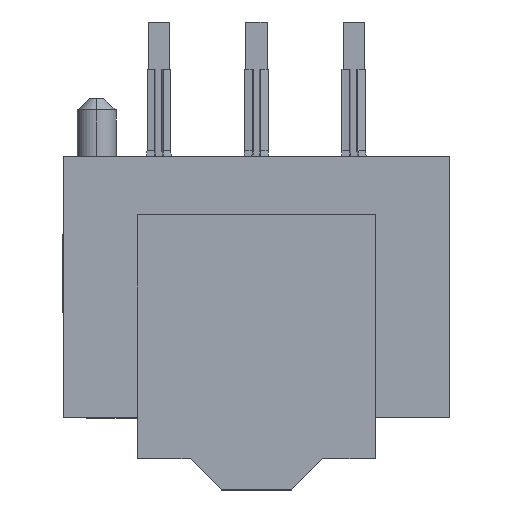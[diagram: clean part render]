
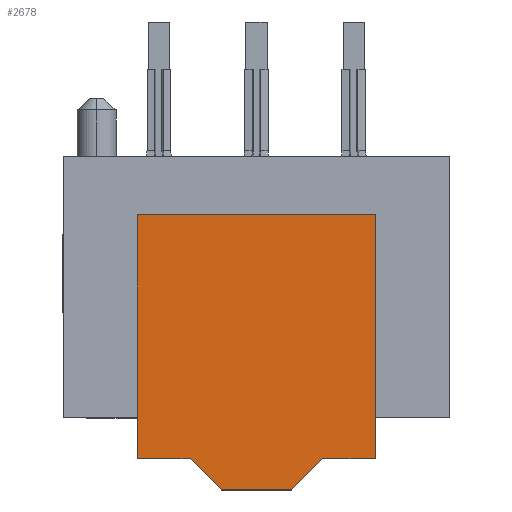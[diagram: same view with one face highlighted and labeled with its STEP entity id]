
A CAD part, top view. The second image highlights one B-rep face of the part: STEP entity #2678.
In plain terms, the highlighted planar face has unit normal (0, 0, 1).
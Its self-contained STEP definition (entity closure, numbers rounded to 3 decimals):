
#360=DIRECTION('',(-1.,0.,0.));
#361=VECTOR('',#360,1.35);
#362=CARTESIAN_POINT('',(-1.7,-5.204,4.2));
#363=LINE('',#362,#361);
#372=DIRECTION('',(0.,1.,0.));
#373=VECTOR('',#372,6.258);
#374=CARTESIAN_POINT('',(-3.05,-5.204,4.2));
#375=LINE('',#374,#373);
#512=DIRECTION('',(-1.,0.,0.));
#513=VECTOR('',#512,1.35);
#514=CARTESIAN_POINT('',(3.05,-5.204,4.2));
#515=LINE('',#514,#513);
#556=DIRECTION('',(0.,1.,0.));
#557=VECTOR('',#556,6.258);
#558=CARTESIAN_POINT('',(3.05,-5.204,4.2));
#559=LINE('',#558,#557);
#560=DIRECTION('',(0.707,0.707,0.));
#561=VECTOR('',#560,1.131);
#562=CARTESIAN_POINT('',(0.9,-6.004,4.2));
#563=LINE('',#562,#561);
#564=DIRECTION('',(1.,0.,0.));
#565=VECTOR('',#564,1.8);
#566=CARTESIAN_POINT('',(-0.9,-6.004,4.2));
#567=LINE('',#566,#565);
#568=DIRECTION('',(0.707,-0.707,0.));
#569=VECTOR('',#568,1.131);
#570=CARTESIAN_POINT('',(-1.7,-5.204,4.2));
#571=LINE('',#570,#569);
#580=DIRECTION('',(1.,0.,0.));
#581=VECTOR('',#580,6.1);
#582=CARTESIAN_POINT('',(-3.05,1.054,4.2));
#583=LINE('',#582,#581);
#1481=CARTESIAN_POINT('',(-3.05,-5.204,4.2));
#1482=CARTESIAN_POINT('',(-3.05,1.054,4.2));
#1483=VERTEX_POINT('',#1481);
#1484=VERTEX_POINT('',#1482);
#1497=CARTESIAN_POINT('',(3.05,1.054,4.2));
#1498=VERTEX_POINT('',#1497);
#1499=CARTESIAN_POINT('',(3.05,-5.204,4.2));
#1500=VERTEX_POINT('',#1499);
#1501=CARTESIAN_POINT('',(-0.9,-6.004,4.2));
#1502=CARTESIAN_POINT('',(0.9,-6.004,4.2));
#1503=VERTEX_POINT('',#1501);
#1504=VERTEX_POINT('',#1502);
#1653=CARTESIAN_POINT('',(-1.7,-5.204,4.2));
#1654=VERTEX_POINT('',#1653);
#1663=CARTESIAN_POINT('',(1.7,-5.204,4.2));
#1664=VERTEX_POINT('',#1663);
#2662=CARTESIAN_POINT('',(-3.05,2.254,4.2));
#2663=DIRECTION('',(0.,0.,-1.));
#2664=DIRECTION('',(-1.,0.,0.));
#2665=AXIS2_PLACEMENT_3D('',#2662,#2663,#2664);
#2666=PLANE('',#2665);
#2667=ORIENTED_EDGE('',*,*,#2577,.F.);
#2668=ORIENTED_EDGE('',*,*,#2598,.T.);
#2669=ORIENTED_EDGE('',*,*,#2623,.F.);
#2670=ORIENTED_EDGE('',*,*,#2637,.F.);
#2671=ORIENTED_EDGE('',*,*,#2656,.F.);
#2672=ORIENTED_EDGE('',*,*,#2408,.T.);
#2673=ORIENTED_EDGE('',*,*,#2426,.T.);
#2675=ORIENTED_EDGE('',*,*,#2674,.T.);
#2676=EDGE_LOOP('',(#2667,#2668,#2669,#2670,#2671,#2672,#2673,#2675));
#2677=FACE_OUTER_BOUND('',#2676,.F.);
#2678=ADVANCED_FACE('',(#2677),#2666,.F.);
#2408=EDGE_CURVE('',#1654,#1483,#363,.T.);
#2426=EDGE_CURVE('',#1483,#1484,#375,.T.);
#2577=EDGE_CURVE('',#1500,#1498,#559,.T.);
#2598=EDGE_CURVE('',#1500,#1664,#515,.T.);
#2623=EDGE_CURVE('',#1504,#1664,#563,.T.);
#2637=EDGE_CURVE('',#1503,#1504,#567,.T.);
#2656=EDGE_CURVE('',#1654,#1503,#571,.T.);
#2674=EDGE_CURVE('',#1484,#1498,#583,.T.);
